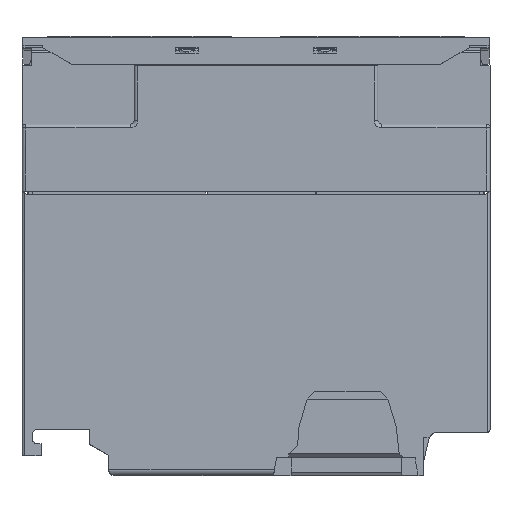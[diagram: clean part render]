
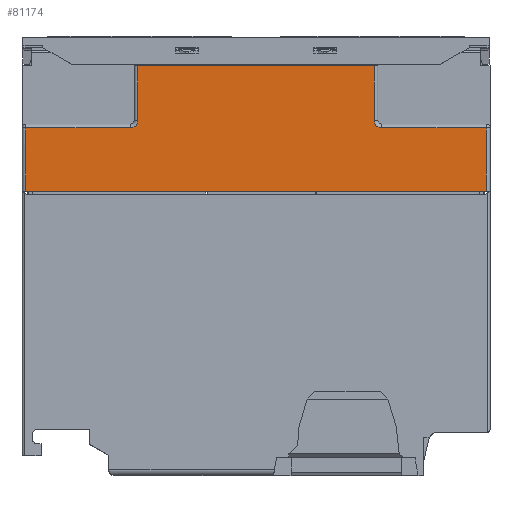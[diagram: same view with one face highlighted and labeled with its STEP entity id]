
A CAD part, top view. The second image highlights one B-rep face of the part: STEP entity #81174.
In plain terms, the highlighted planar face has unit normal (0, 0, 1).
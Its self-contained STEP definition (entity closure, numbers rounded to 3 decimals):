
#161=DIRECTION('',(0.,1.,0.));
#162=VECTOR('',#161,1.64);
#163=CARTESIAN_POINT('',(61.5,80.51,20.));
#164=LINE('',#163,#162);
#192=DIRECTION('',(1.,0.,0.));
#193=VECTOR('',#192,123.);
#194=CARTESIAN_POINT('',(-61.5,75.8,20.));
#195=LINE('',#194,#193);
#7683=DIRECTION('',(-1.,0.,0.));
#7684=VECTOR('',#7683,63.155);
#7685=CARTESIAN_POINT('',(31.577,109.4,20.));
#7686=LINE('',#7685,#7684);
#7687=CARTESIAN_POINT('',(-33.577,94.8,20.));
#7688=DIRECTION('',(0.,0.,-1.));
#7689=DIRECTION('',(1.,0.,0.));
#7690=AXIS2_PLACEMENT_3D('',#7687,#7688,#7689);
#7692=DIRECTION('',(0.,-1.,0.));
#7693=VECTOR('',#7692,14.6);
#7694=CARTESIAN_POINT('',(-31.577,109.4,20.));
#7695=LINE('',#7694,#7693);
#7696=DIRECTION('',(0.,1.,0.));
#7697=VECTOR('',#7696,14.6);
#7698=CARTESIAN_POINT('',(31.577,94.8,20.));
#7699=LINE('',#7698,#7697);
#7700=CARTESIAN_POINT('',(33.577,94.8,20.));
#7701=DIRECTION('',(0.,0.,-1.));
#7702=DIRECTION('',(0.,-1.,0.));
#7703=AXIS2_PLACEMENT_3D('',#7700,#7701,#7702);
#7705=DIRECTION('',(0.,1.,0.));
#7706=VECTOR('',#7705,10.65);
#7707=CARTESIAN_POINT('',(61.5,82.15,20.));
#7708=LINE('',#7707,#7706);
#7709=DIRECTION('',(0.,1.,0.));
#7710=VECTOR('',#7709,4.71);
#7711=CARTESIAN_POINT('',(61.5,75.8,20.));
#7712=LINE('',#7711,#7710);
#7713=DIRECTION('',(0.,1.,0.));
#7714=VECTOR('',#7713,4.71);
#7715=CARTESIAN_POINT('',(-61.5,75.8,20.));
#7716=LINE('',#7715,#7714);
#7717=DIRECTION('',(0.,1.,0.));
#7718=VECTOR('',#7717,10.65);
#7719=CARTESIAN_POINT('',(-61.5,82.15,20.));
#7720=LINE('',#7719,#7718);
#7731=DIRECTION('',(-1.,0.,0.));
#7732=VECTOR('',#7731,27.923);
#7733=CARTESIAN_POINT('',(-33.577,92.8,20.));
#7734=LINE('',#7733,#7732);
#7753=DIRECTION('',(0.,1.,0.));
#7754=VECTOR('',#7753,1.64);
#7755=CARTESIAN_POINT('',(-61.5,80.51,20.));
#7756=LINE('',#7755,#7754);
#28067=DIRECTION('',(-1.,0.,0.));
#28068=VECTOR('',#28067,27.923);
#28069=CARTESIAN_POINT('',(61.5,92.8,20.));
#28070=LINE('',#28069,#28068);
#66163=CARTESIAN_POINT('',(-61.5,75.8,20.));
#66164=CARTESIAN_POINT('',(61.5,75.8,20.));
#66165=VERTEX_POINT('',#66163);
#66166=VERTEX_POINT('',#66164);
#66177=CARTESIAN_POINT('',(-61.5,80.51,20.));
#66178=VERTEX_POINT('',#66177);
#66179=CARTESIAN_POINT('',(61.5,80.51,20.));
#66180=VERTEX_POINT('',#66179);
#66781=CARTESIAN_POINT('',(-61.5,82.15,20.));
#66782=VERTEX_POINT('',#66781);
#66791=CARTESIAN_POINT('',(61.5,82.15,20.));
#66792=VERTEX_POINT('',#66791);
#68437=CARTESIAN_POINT('',(61.5,92.8,20.));
#68439=VERTEX_POINT('',#68437);
#68440=CARTESIAN_POINT('',(-61.5,92.8,20.));
#68442=VERTEX_POINT('',#68440);
#70795=CARTESIAN_POINT('',(-31.577,94.8,20.));
#70796=CARTESIAN_POINT('',(-33.577,92.8,20.));
#70797=VERTEX_POINT('',#70795);
#70798=VERTEX_POINT('',#70796);
#70804=CARTESIAN_POINT('',(-31.577,109.4,20.));
#70806=VERTEX_POINT('',#70804);
#70807=CARTESIAN_POINT('',(31.577,109.4,20.));
#70809=VERTEX_POINT('',#70807);
#70813=CARTESIAN_POINT('',(31.577,94.8,20.));
#70814=VERTEX_POINT('',#70813);
#70817=CARTESIAN_POINT('',(33.577,92.8,20.));
#70818=VERTEX_POINT('',#70817);
#81145=CARTESIAN_POINT('',(-30.75,95.8,20.));
#81146=DIRECTION('',(0.,0.,-1.));
#81147=DIRECTION('',(-1.,0.,0.));
#81148=AXIS2_PLACEMENT_3D('',#81145,#81146,#81147);
#81149=PLANE('',#81148);
#81151=ORIENTED_EDGE('',*,*,#81150,.F.);
#81152=ORIENTED_EDGE('',*,*,#81136,.F.);
#81153=ORIENTED_EDGE('',*,*,#81125,.F.);
#81155=ORIENTED_EDGE('',*,*,#81154,.F.);
#81157=ORIENTED_EDGE('',*,*,#81156,.F.);
#81159=ORIENTED_EDGE('',*,*,#81158,.F.);
#81160=ORIENTED_EDGE('',*,*,#73176,.F.);
#81161=ORIENTED_EDGE('',*,*,#73174,.F.);
#81162=ORIENTED_EDGE('',*,*,#73172,.F.);
#81163=ORIENTED_EDGE('',*,*,#73215,.F.);
#81165=ORIENTED_EDGE('',*,*,#81164,.T.);
#81167=ORIENTED_EDGE('',*,*,#81166,.T.);
#81169=ORIENTED_EDGE('',*,*,#81168,.T.);
#81171=ORIENTED_EDGE('',*,*,#81170,.F.);
#81172=EDGE_LOOP('',(#81151,#81152,#81153,#81155,#81157,#81159,#81160,#81161,
#81162,#81163,#81165,#81167,#81169,#81171));
#81173=FACE_OUTER_BOUND('',#81172,.F.);
#81174=ADVANCED_FACE('',(#81173),#81149,.F.);
#7691=CIRCLE('',#7690,2.);
#7704=CIRCLE('',#7703,2.);
#73172=EDGE_CURVE('',#66166,#66180,#7712,.T.);
#73174=EDGE_CURVE('',#66180,#66792,#164,.T.);
#73176=EDGE_CURVE('',#66792,#68439,#7708,.T.);
#73215=EDGE_CURVE('',#66165,#66166,#195,.T.);
#81125=EDGE_CURVE('',#70809,#70806,#7686,.T.);
#81136=EDGE_CURVE('',#70806,#70797,#7695,.T.);
#81150=EDGE_CURVE('',#70797,#70798,#7691,.T.);
#81154=EDGE_CURVE('',#70814,#70809,#7699,.T.);
#81156=EDGE_CURVE('',#70818,#70814,#7704,.T.);
#81158=EDGE_CURVE('',#68439,#70818,#28070,.T.);
#81164=EDGE_CURVE('',#66165,#66178,#7716,.T.);
#81166=EDGE_CURVE('',#66178,#66782,#7756,.T.);
#81168=EDGE_CURVE('',#66782,#68442,#7720,.T.);
#81170=EDGE_CURVE('',#70798,#68442,#7734,.T.);
